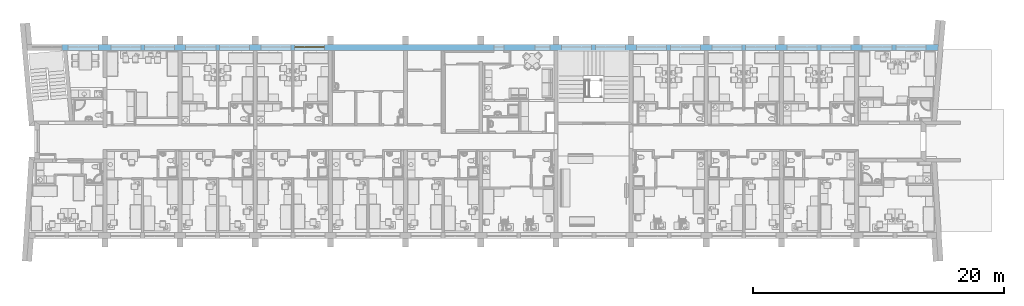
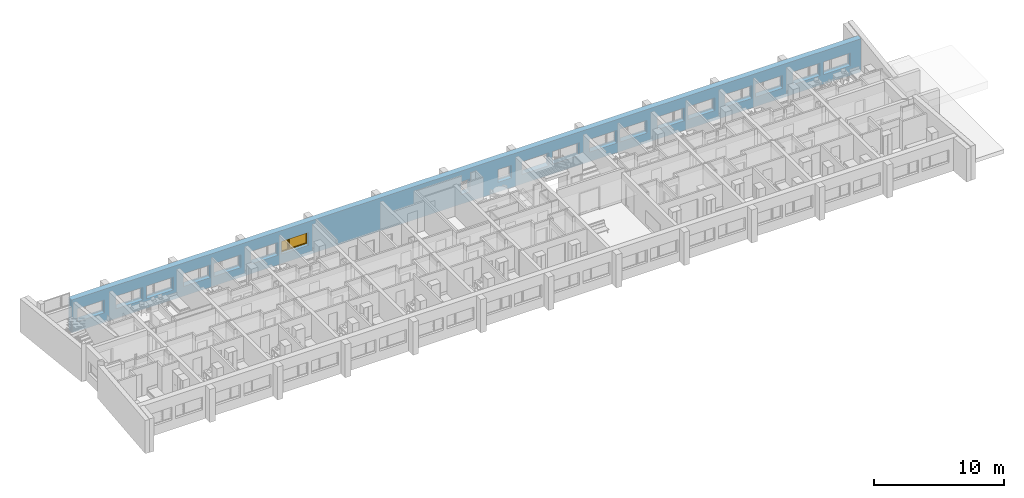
# One storey, part 33 of 172: 1 window, 19 openings, plus 1 element that does not belong to this part.
"""IFC2X3 building model written with IfcOpenShell, lengths in millimetres."""

from ifc_helpers import new_model, entity, si_unit, converted_unit, money_unit, direction, frame, origin_with_axes, place, context, subcontext, project, spatial, polyline, outline, extrude, open_shell, faceted_brep, surface_model, source, transform, mapped, material, material_list, layer, layer_set, layer_usage, type_object, element, fill, save


model = new_model("IFC2X3")

# Units and contexts
model_context = context("Model", 3, precision=1e-05, world=origin_with_axes(), true_north=direction((0.0, 1.0)))
body_context = subcontext(model_context, "Body", "Model", "MODEL_VIEW")
ifc_project = project(units=[si_unit("LENGTHUNIT", "METRE", prefix="MILLI"), si_unit("AREAUNIT", "SQUARE_METRE"), si_unit("VOLUMEUNIT", "CUBIC_METRE"), converted_unit("PLANEANGLEUNIT", "DEGREE", entity("IfcPlaneAngleMeasure", 0.0174532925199), si_unit("PLANEANGLEUNIT", "RADIAN"), dimensions=[0, 0, 0, 0, 0, 0, 0]), si_unit("SOLIDANGLEUNIT", "STERADIAN"), money_unit("USD"), converted_unit("TIMEUNIT", "Year", entity("IfcTimeMeasure", 31556926.0), si_unit("TIMEUNIT", "SECOND"), dimensions=[0, 0, 0, 0, 0, 0, 0]), si_unit("MASSUNIT", "GRAM"), si_unit("THERMODYNAMICTEMPERATUREUNIT", "DEGREE_CELSIUS"), si_unit("LUMINOUSINTENSITYUNIT", "LUMEN")], contexts=[model_context])

# Site, building, storey
site_placement = place(None, origin_with_axes())
site = spatial("IfcSite", under=ifc_project, at=site_placement, Name="Site", CompositionType="ELEMENT")
building_placement = place(site_placement, origin_with_axes())
building = spatial("IfcBuilding", under=site, at=building_placement, Name="Building", CompositionType="ELEMENT")
storey_placement = place(building_placement, frame((0.0, 0.0, 3200.0), z_axis=(0.0, 0.0, 1.0), x_axis=(1.0, 0.0, 0.0)))
storey = spatial("IfcBuildingStorey", under=building, at=storey_placement, Name="3KORRUS", CompositionType="ELEMENT", Elevation=3200.0)

# Wall, openings, window
ifc_material_1 = material(Name="Olemasolevad seinad tellis, uus viimistlus")
ifc_layer = layer(ifc_material_1, 500.0, ventilated="UNKNOWN")
ifc_layer_set = layer_set([ifc_layer], Name="Olemasolevad seinad tellis, uus viimistlus 500")
ifc_layer_usage = layer_usage(ifc_layer_set, "AXIS2", "POSITIVE", -100.0)
wall_type = type_object("IfcWallType", Name="Olemasolevad seinad tellis, uus viimistlus 500", PredefinedType="NOTDEFINED")
wall_placement = place(storey_placement, frame((-51569.3388124, -5039.6041088, 0.0), z_axis=(0.0, 0.0, 1.0), x_axis=(1.0, 0.0, 0.0)))
wall = element("IfcWallStandardCase", 1, at=wall_placement, inside=storey, type_object=wall_type, material=ifc_layer_usage, Name="VS1", ObjectType="VS1", context=body_context, shape_type="SweptSolid", body=[
    extrude(outline(polyline([(0.0, -100.0), (69914.7195482, -100.0), (69959.6995146, 400.0), (0.0, 400.0), (0.0, -100.0)])), origin_with_axes(), (0.0, 0.0, 1.0), 3100.0),
])
opening_1_placement = place(wall_placement, frame((34879.0421091, 0.0, 900.0), z_axis=(0.0, 0.0, 1.0), x_axis=(1.0, 0.0, 0.0)))
element("IfcOpeningElement", 2, at=opening_1_placement, cuts=wall, Name="WD - 001", context=body_context, shape_type="SweptSolid", body=[
    extrude(outline(polyline([(-400.0, 1200.0), (-400.0, 0.0), (400.0, 0.0), (400.0, 1200.0), (-400.0, 1200.0)])), frame((0.0, 200.0, 0.0), z_axis=(0.0, -1.0, 0.0), x_axis=(1.0, 0.0, 0.0)), (0.0, 0.0, 1.0), 800.0),
    extrude(outline(polyline([(-400.0, 0.0), (-400.0, -1200.0), (400.0, -1200.0), (400.0, 0.0), (-400.0, 0.0)])), frame((0.0, 200.0, 0.0), z_axis=(0.0, 1.0, 0.0), x_axis=(1.0, 0.0, 0.0)), (0.0, 0.0, 1.0), 700.0),
])
opening_2_placement = place(wall_placement, frame((38352.6323068, 0.0, 900.0), z_axis=(0.0, 0.0, 1.0), x_axis=(1.0, 0.0, 0.0)))
element("IfcOpeningElement", 3, at=opening_2_placement, cuts=wall, Name="A3", context=body_context, shape_type="SweptSolid", body=[
    extrude(outline(polyline([(-600.0, 1200.0), (-600.0, 0.0), (600.0, 0.0), (600.0, 1200.0), (-600.0, 1200.0)])), frame((0.0, 200.0, 0.0), z_axis=(0.0, -1.0, 0.0), x_axis=(1.0, 0.0, 0.0)), (0.0, 0.0, 1.0), 800.0),
    extrude(outline(polyline([(-600.0, 0.0), (-600.0, -1200.0), (600.0, -1200.0), (600.0, 0.0), (-600.0, 0.0)])), frame((0.0, 200.0, 0.0), z_axis=(0.0, 1.0, 0.0), x_axis=(1.0, 0.0, 0.0)), (0.0, 0.0, 1.0), 700.0),
])
opening_3_placement = place(wall_placement, frame((1700.0, 0.0, 900.0), z_axis=(0.0, 0.0, 1.0), x_axis=(1.0, 0.0, 0.0)))
element("IfcOpeningElement", 4, at=opening_3_placement, cuts=wall, Name="A1", context=body_context, shape_type="SweptSolid", body=[
    extrude(outline(polyline([(1200.0, 1200.0), (-1200.0, 1200.0), (-1200.0, 0.0), (1200.0, 0.0), (1200.0, 1200.0)])), frame((0.0, 200.0, 0.0), z_axis=(0.0, -1.0, 0.0), x_axis=(1.0, 0.0, 0.0)), (0.0, 0.0, 1.0), 800.0),
    extrude(outline(polyline([(1200.0, 0.0), (-1200.0, 0.0), (-1200.0, -1200.0), (1200.0, -1200.0), (1200.0, 0.0)])), frame((0.0, 200.0, 0.0), z_axis=(0.0, 1.0, 0.0), x_axis=(1.0, 0.0, 0.0)), (0.0, 0.0, 1.0), 700.0),
])
opening_4_placement = place(wall_placement, frame((7795.91085613, 0.0, 900.0), z_axis=(0.0, 0.0, 1.0), x_axis=(1.0, 0.0, 0.0)))
element("IfcOpeningElement", 5, at=opening_4_placement, cuts=wall, Name="A1", context=body_context, shape_type="SweptSolid", body=[
    extrude(outline(polyline([(1200.0, 1200.0), (-1200.0, 1200.0), (-1200.0, 0.0), (1200.0, 0.0), (1200.0, 1200.0)])), frame((0.0, 200.0, 0.0), z_axis=(0.0, -1.0, 0.0), x_axis=(1.0, 0.0, 0.0)), (0.0, 0.0, 1.0), 800.0),
    extrude(outline(polyline([(1200.0, 0.0), (-1200.0, 0.0), (-1200.0, -1200.0), (1200.0, -1200.0), (1200.0, 0.0)])), frame((0.0, 200.0, 0.0), z_axis=(0.0, 1.0, 0.0), x_axis=(1.0, 0.0, 0.0)), (0.0, 0.0, 1.0), 700.0),
])
opening_5_placement = place(wall_placement, frame((5095.91085613, 0.0, 900.0), z_axis=(0.0, 0.0, 1.0), x_axis=(1.0, 0.0, 0.0)))
element("IfcOpeningElement", 6, at=opening_5_placement, cuts=wall, Name="A2", context=body_context, shape_type="SweptSolid", body=[
    extrude(outline(polyline([(-1200.0, 1200.0), (-1200.0, 0.0), (1200.0, 0.0), (1200.0, 1200.0), (-1200.0, 1200.0)])), frame((0.0, 200.0, 0.0), z_axis=(0.0, -1.0, 0.0), x_axis=(1.0, 0.0, 0.0)), (0.0, 0.0, 1.0), 800.0),
    extrude(outline(polyline([(-1200.0, 0.0), (-1200.0, -1200.0), (1200.0, -1200.0), (1200.0, 0.0), (-1200.0, 0.0)])), frame((0.0, 200.0, 0.0), z_axis=(0.0, 1.0, 0.0), x_axis=(1.0, 0.0, 0.0)), (0.0, 0.0, 1.0), 700.0),
])
opening_6_placement = place(wall_placement, frame((13779.0421091, 0.0, 900.0), z_axis=(0.0, 0.0, 1.0), x_axis=(1.0, 0.0, 0.0)))
element("IfcOpeningElement", 7, at=opening_6_placement, cuts=wall, Name="A1", context=body_context, shape_type="SweptSolid", body=[
    extrude(outline(polyline([(1200.0, 1200.0), (-1200.0, 1200.0), (-1200.0, 0.0), (1200.0, 0.0), (1200.0, 1200.0)])), frame((0.0, 200.0, 0.0), z_axis=(0.0, -1.0, 0.0), x_axis=(1.0, 0.0, 0.0)), (0.0, 0.0, 1.0), 800.0),
    extrude(outline(polyline([(1200.0, 0.0), (-1200.0, 0.0), (-1200.0, -1200.0), (1200.0, -1200.0), (1200.0, 0.0)])), frame((0.0, 200.0, 0.0), z_axis=(0.0, 1.0, 0.0), x_axis=(1.0, 0.0, 0.0)), (0.0, 0.0, 1.0), 700.0),
])
opening_7_placement = place(wall_placement, frame((11079.0421091, 0.0, 900.0), z_axis=(0.0, 0.0, 1.0), x_axis=(1.0, 0.0, 0.0)))
element("IfcOpeningElement", 8, at=opening_7_placement, cuts=wall, Name="A2", context=body_context, shape_type="SweptSolid", body=[
    extrude(outline(polyline([(-1200.0, 1200.0), (-1200.0, 0.0), (1200.0, 0.0), (1200.0, 1200.0), (-1200.0, 1200.0)])), frame((0.0, 200.0, 0.0), z_axis=(0.0, -1.0, 0.0), x_axis=(1.0, 0.0, 0.0)), (0.0, 0.0, 1.0), 800.0),
    extrude(outline(polyline([(-1200.0, 0.0), (-1200.0, -1200.0), (1200.0, -1200.0), (1200.0, 0.0), (-1200.0, 0.0)])), frame((0.0, 200.0, 0.0), z_axis=(0.0, 1.0, 0.0), x_axis=(1.0, 0.0, 0.0)), (0.0, 0.0, 1.0), 700.0),
])
opening_8_placement = place(wall_placement, frame((43769.0421091, 0.0, 900.0), z_axis=(0.0, 0.0, 1.0), x_axis=(1.0, 0.0, 0.0)))
element("IfcOpeningElement", 9, at=opening_8_placement, cuts=wall, Name="A1", context=body_context, shape_type="SweptSolid", body=[
    extrude(outline(polyline([(1200.0, 1200.0), (-1200.0, 1200.0), (-1200.0, 0.0), (1200.0, 0.0), (1200.0, 1200.0)])), frame((0.0, 200.0, 0.0), z_axis=(0.0, -1.0, 0.0), x_axis=(1.0, 0.0, 0.0)), (0.0, 0.0, 1.0), 800.0),
    extrude(outline(polyline([(1200.0, 0.0), (-1200.0, 0.0), (-1200.0, -1200.0), (1200.0, -1200.0), (1200.0, 0.0)])), frame((0.0, 200.0, 0.0), z_axis=(0.0, 1.0, 0.0), x_axis=(1.0, 0.0, 0.0)), (0.0, 0.0, 1.0), 700.0),
])
opening_9_placement = place(wall_placement, frame((41069.0421091, 0.0, 900.0), z_axis=(0.0, 0.0, 1.0), x_axis=(1.0, 0.0, 0.0)))
element("IfcOpeningElement", 10, at=opening_9_placement, cuts=wall, Name="A2", context=body_context, shape_type="SweptSolid", body=[
    extrude(outline(polyline([(-1200.0, 1200.0), (-1200.0, 0.0), (1200.0, 0.0), (1200.0, 1200.0), (-1200.0, 1200.0)])), frame((0.0, 200.0, 0.0), z_axis=(0.0, -1.0, 0.0), x_axis=(1.0, 0.0, 0.0)), (0.0, 0.0, 1.0), 800.0),
    extrude(outline(polyline([(-1200.0, 0.0), (-1200.0, -1200.0), (1200.0, -1200.0), (1200.0, 0.0), (-1200.0, 0.0)])), frame((0.0, 200.0, 0.0), z_axis=(0.0, 1.0, 0.0), x_axis=(1.0, 0.0, 0.0)), (0.0, 0.0, 1.0), 700.0),
])
opening_10_placement = place(wall_placement, frame((49769.0421091, 0.0, 900.0), z_axis=(0.0, 0.0, 1.0), x_axis=(1.0, 0.0, 0.0)))
element("IfcOpeningElement", 11, at=opening_10_placement, cuts=wall, Name="A1", context=body_context, shape_type="SweptSolid", body=[
    extrude(outline(polyline([(1200.0, 1200.0), (-1200.0, 1200.0), (-1200.0, 0.0), (1200.0, 0.0), (1200.0, 1200.0)])), frame((0.0, 200.0, 0.0), z_axis=(0.0, -1.0, 0.0), x_axis=(1.0, 0.0, 0.0)), (0.0, 0.0, 1.0), 800.0),
    extrude(outline(polyline([(1200.0, 0.0), (-1200.0, 0.0), (-1200.0, -1200.0), (1200.0, -1200.0), (1200.0, 0.0)])), frame((0.0, 200.0, 0.0), z_axis=(0.0, 1.0, 0.0), x_axis=(1.0, 0.0, 0.0)), (0.0, 0.0, 1.0), 700.0),
])
opening_11_placement = place(wall_placement, frame((47069.0421091, 0.0, 900.0), z_axis=(0.0, 0.0, 1.0), x_axis=(1.0, 0.0, 0.0)))
element("IfcOpeningElement", 12, at=opening_11_placement, cuts=wall, Name="A2", context=body_context, shape_type="SweptSolid", body=[
    extrude(outline(polyline([(-1200.0, 1200.0), (-1200.0, 0.0), (1200.0, 0.0), (1200.0, 1200.0), (-1200.0, 1200.0)])), frame((0.0, 200.0, 0.0), z_axis=(0.0, -1.0, 0.0), x_axis=(1.0, 0.0, 0.0)), (0.0, 0.0, 1.0), 800.0),
    extrude(outline(polyline([(-1200.0, 0.0), (-1200.0, -1200.0), (1200.0, -1200.0), (1200.0, 0.0), (-1200.0, 0.0)])), frame((0.0, 200.0, 0.0), z_axis=(0.0, 1.0, 0.0), x_axis=(1.0, 0.0, 0.0)), (0.0, 0.0, 1.0), 700.0),
])
opening_12_placement = place(wall_placement, frame((55769.0421091, 0.0, 900.0), z_axis=(0.0, 0.0, 1.0), x_axis=(1.0, 0.0, 0.0)))
element("IfcOpeningElement", 13, at=opening_12_placement, cuts=wall, Name="A1", context=body_context, shape_type="SweptSolid", body=[
    extrude(outline(polyline([(1200.0, 1200.0), (-1200.0, 1200.0), (-1200.0, 0.0), (1200.0, 0.0), (1200.0, 1200.0)])), frame((0.0, 200.0, 0.0), z_axis=(0.0, -1.0, 0.0), x_axis=(1.0, 0.0, 0.0)), (0.0, 0.0, 1.0), 800.0),
    extrude(outline(polyline([(1200.0, 0.0), (-1200.0, 0.0), (-1200.0, -1200.0), (1200.0, -1200.0), (1200.0, 0.0)])), frame((0.0, 200.0, 0.0), z_axis=(0.0, 1.0, 0.0), x_axis=(1.0, 0.0, 0.0)), (0.0, 0.0, 1.0), 700.0),
])
opening_13_placement = place(wall_placement, frame((53069.0421091, 0.0, 900.0), z_axis=(0.0, 0.0, 1.0), x_axis=(1.0, 0.0, 0.0)))
element("IfcOpeningElement", 14, at=opening_13_placement, cuts=wall, Name="A2", context=body_context, shape_type="SweptSolid", body=[
    extrude(outline(polyline([(-1200.0, 1200.0), (-1200.0, 0.0), (1200.0, 0.0), (1200.0, 1200.0), (-1200.0, 1200.0)])), frame((0.0, 200.0, 0.0), z_axis=(0.0, -1.0, 0.0), x_axis=(1.0, 0.0, 0.0)), (0.0, 0.0, 1.0), 800.0),
    extrude(outline(polyline([(-1200.0, 0.0), (-1200.0, -1200.0), (1200.0, -1200.0), (1200.0, 0.0), (-1200.0, 0.0)])), frame((0.0, 200.0, 0.0), z_axis=(0.0, 1.0, 0.0), x_axis=(1.0, 0.0, 0.0)), (0.0, 0.0, 1.0), 700.0),
])
opening_14_placement = place(wall_placement, frame((61769.0421091, 0.0, 900.0), z_axis=(0.0, 0.0, 1.0), x_axis=(1.0, 0.0, 0.0)))
element("IfcOpeningElement", 15, at=opening_14_placement, cuts=wall, Name="A1", context=body_context, shape_type="SweptSolid", body=[
    extrude(outline(polyline([(1200.0, 1200.0), (-1200.0, 1200.0), (-1200.0, 0.0), (1200.0, 0.0), (1200.0, 1200.0)])), frame((0.0, 200.0, 0.0), z_axis=(0.0, -1.0, 0.0), x_axis=(1.0, 0.0, 0.0)), (0.0, 0.0, 1.0), 800.0),
    extrude(outline(polyline([(1200.0, 0.0), (-1200.0, 0.0), (-1200.0, -1200.0), (1200.0, -1200.0), (1200.0, 0.0)])), frame((0.0, 200.0, 0.0), z_axis=(0.0, 1.0, 0.0), x_axis=(1.0, 0.0, 0.0)), (0.0, 0.0, 1.0), 700.0),
])
opening_15_placement = place(wall_placement, frame((59069.0421091, 0.0, 900.0), z_axis=(0.0, 0.0, 1.0), x_axis=(1.0, 0.0, 0.0)))
element("IfcOpeningElement", 16, at=opening_15_placement, cuts=wall, Name="A2", context=body_context, shape_type="SweptSolid", body=[
    extrude(outline(polyline([(-1200.0, 1200.0), (-1200.0, 0.0), (1200.0, 0.0), (1200.0, 1200.0), (-1200.0, 1200.0)])), frame((0.0, 200.0, 0.0), z_axis=(0.0, -1.0, 0.0), x_axis=(1.0, 0.0, 0.0)), (0.0, 0.0, 1.0), 800.0),
    extrude(outline(polyline([(-1200.0, 0.0), (-1200.0, -1200.0), (1200.0, -1200.0), (1200.0, 0.0), (-1200.0, 0.0)])), frame((0.0, 200.0, 0.0), z_axis=(0.0, 1.0, 0.0), x_axis=(1.0, 0.0, 0.0)), (0.0, 0.0, 1.0), 700.0),
])
opening_16_placement = place(wall_placement, frame((67773.3244043, 0.0, 900.0), z_axis=(0.0, 0.0, 1.0), x_axis=(1.0, 0.0, 0.0)))
element("IfcOpeningElement", 17, at=opening_16_placement, cuts=wall, Name="A1", context=body_context, shape_type="SweptSolid", body=[
    extrude(outline(polyline([(1200.0, 1200.0), (-1200.0, 1200.0), (-1200.0, 0.0), (1200.0, 0.0), (1200.0, 1200.0)])), frame((0.0, 200.0, 0.0), z_axis=(0.0, -1.0, 0.0), x_axis=(1.0, 0.0, 0.0)), (0.0, 0.0, 1.0), 800.0),
    extrude(outline(polyline([(1200.0, 0.0), (-1200.0, 0.0), (-1200.0, -1200.0), (1200.0, -1200.0), (1200.0, 0.0)])), frame((0.0, 200.0, 0.0), z_axis=(0.0, 1.0, 0.0), x_axis=(1.0, 0.0, 0.0)), (0.0, 0.0, 1.0), 700.0),
])
opening_17_placement = place(wall_placement, frame((65073.3244043, 0.0, 900.0), z_axis=(0.0, 0.0, 1.0), x_axis=(1.0, 0.0, 0.0)))
element("IfcOpeningElement", 18, at=opening_17_placement, cuts=wall, Name="A2", context=body_context, shape_type="SweptSolid", body=[
    extrude(outline(polyline([(-1200.0, 1200.0), (-1200.0, 0.0), (1200.0, 0.0), (1200.0, 1200.0), (-1200.0, 1200.0)])), frame((0.0, 200.0, 0.0), z_axis=(0.0, -1.0, 0.0), x_axis=(1.0, 0.0, 0.0)), (0.0, 0.0, 1.0), 800.0),
    extrude(outline(polyline([(-1200.0, 0.0), (-1200.0, -1200.0), (1200.0, -1200.0), (1200.0, 0.0), (-1200.0, 0.0)])), frame((0.0, 200.0, 0.0), z_axis=(0.0, 1.0, 0.0), x_axis=(1.0, 0.0, 0.0)), (0.0, 0.0, 1.0), 700.0),
])
opening_18_placement = place(wall_placement, frame((19767.4765851, 0.0, 900.0), z_axis=(0.0, 0.0, 1.0), x_axis=(1.0, 0.0, 0.0)))
opening_18 = element("IfcOpeningElement", 19, at=opening_18_placement, cuts=wall, Name="A1", context=body_context, shape_type="SweptSolid", body=[
    extrude(outline(polyline([(1200.0, 1200.0), (-1200.0, 1200.0), (-1200.0, 0.0), (1200.0, 0.0), (1200.0, 1200.0)])), frame((0.0, 200.0, 0.0), z_axis=(0.0, -1.0, 0.0), x_axis=(1.0, 0.0, 0.0)), (0.0, 0.0, 1.0), 800.0),
    extrude(outline(polyline([(1200.0, 0.0), (-1200.0, 0.0), (-1200.0, -1200.0), (1200.0, -1200.0), (1200.0, 0.0)])), frame((0.0, 200.0, 0.0), z_axis=(0.0, 1.0, 0.0), x_axis=(1.0, 0.0, 0.0)), (0.0, 0.0, 1.0), 700.0),
])
opening_19_placement = place(wall_placement, frame((17067.4765851, 0.0, 900.0), z_axis=(0.0, 0.0, 1.0), x_axis=(1.0, 0.0, 0.0)))
element("IfcOpeningElement", 20, at=opening_19_placement, cuts=wall, Name="A2", context=body_context, shape_type="SweptSolid", body=[
    extrude(outline(polyline([(-1200.0, 1200.0), (-1200.0, 0.0), (1200.0, 0.0), (1200.0, 1200.0), (-1200.0, 1200.0)])), frame((0.0, 200.0, 0.0), z_axis=(0.0, -1.0, 0.0), x_axis=(1.0, 0.0, 0.0)), (0.0, 0.0, 1.0), 800.0),
    extrude(outline(polyline([(-1200.0, 0.0), (-1200.0, -1200.0), (1200.0, -1200.0), (1200.0, 0.0), (-1200.0, 0.0)])), frame((0.0, 200.0, 0.0), z_axis=(0.0, 1.0, 0.0), x_axis=(1.0, 0.0, 0.0)), (0.0, 0.0, 1.0), 700.0),
])
ifc_material_2 = material(Name="Background")
ifc_material_list = material_list([ifc_material_2])
window_style = type_object("IfcWindowStyle", Name="Double Window 19", ConstructionType="NOTDEFINED", OperationType="DOUBLE_PANEL_VERTICAL", ParameterTakesPrecedence=False, Sizeable=False)
shared_shape = source(origin_with_axes(), body_context, "Body", "SurfaceModel", [
    faceted_brep([(1175.0, -200.0, 1150.0), (1175.0, -225.0, 1150.0), (1150.0, -225.0, 1150.0), (1150.0, -250.0, 1150.0), (1200.0, -250.0, 1150.0), (1200.0, -200.0, 1150.0), (1175.0, -200.0, 50.0), (1175.0, -225.0, 50.0), (1150.0, -225.0, 50.0), (1150.0, -250.0, 50.0), (1200.0, -250.0, 50.0), (1200.0, -200.0, 50.0)], [[[0, 1, 2, 3, 4, 5]], [[1, 0, 6, 7]], [[8, 2, 1, 7]], [[2, 8, 9, 3]], [[4, 3, 9, 10]], [[5, 4, 10, 11]], [[6, 0, 5, 11]], [[7, 6, 11, 10, 9, 8]]]),
    faceted_brep([(-1150.0, -225.0, 1150.0), (-1175.0, -225.0, 1150.0), (-1175.0, -200.0, 1150.0), (-1200.0, -200.0, 1150.0), (-1200.0, -250.0, 1150.0), (-1150.0, -250.0, 1150.0), (-1150.0, -225.0, 50.0), (-1175.0, -225.0, 50.0), (-1175.0, -200.0, 50.0), (-1200.0, -200.0, 50.0), (-1200.0, -250.0, 50.0), (-1150.0, -250.0, 50.0)], [[[0, 1, 2, 3, 4, 5]], [[1, 0, 6, 7]], [[8, 2, 1, 7]], [[2, 8, 9, 3]], [[9, 10, 4, 3]], [[10, 11, 5, 4]], [[6, 0, 5, 11]], [[7, 6, 11, 10, 9, 8]]]),
    faceted_brep([(-350.0, -225.0, 1150.0), (-375.0, -225.0, 1150.0), (-375.0, -200.0, 1150.0), (-425.0, -200.0, 1150.0), (-425.0, -225.0, 1150.0), (-450.0, -225.0, 1150.0), (-450.0, -250.0, 1150.0), (-350.0, -250.0, 1150.0), (-350.0, -225.0, 50.0), (-375.0, -225.0, 50.0), (-375.0, -200.0, 50.0), (-425.0, -200.0, 50.0), (-425.0, -225.0, 50.0), (-450.0, -225.0, 50.0), (-450.0, -250.0, 50.0), (-350.0, -250.0, 50.0)], [[[0, 1, 2, 3, 4, 5, 6, 7]], [[1, 0, 8, 9]], [[10, 2, 1, 9]], [[2, 10, 11, 3]], [[4, 3, 11, 12]], [[13, 5, 4, 12]], [[5, 13, 14, 6]], [[14, 15, 7, 6]], [[8, 0, 7, 15]], [[9, 8, 15, 14, 13, 12, 11, 10]]]),
    faceted_brep([(-350.0, -225.0, 50.0), (-375.0, -225.0, 50.0), (-375.0, -200.0, 50.0), (-425.0, -200.0, 50.0), (-425.0, -225.0, 50.0), (-450.0, -225.0, 50.0), (-450.0, -250.0, 50.0), (-350.0, -250.0, 50.0), (1150.0, -225.0, 50.0), (1175.0, -225.0, 50.0), (1175.0, -225.0, 25.0), (-375.0, -225.0, 25.0), (-375.0, -200.0, 25.0), (1175.0, -200.0, 25.0), (1175.0, -200.0, 50.0), (1200.0, -200.0, 50.0), (1200.0, -200.0, 0.0), (-1200.0, -200.0, 0.0), (-1200.0, -200.0, 50.0), (-1175.0, -200.0, 50.0), (-1175.0, -200.0, 25.0), (-425.0, -200.0, 25.0), (-425.0, -225.0, 25.0), (-1175.0, -225.0, 50.0), (-1150.0, -225.0, 50.0), (-1175.0, -225.0, 25.0), (-1150.0, -250.0, 50.0), (1200.0, -250.0, 50.0), (1150.0, -250.0, 50.0), (-1200.0, -250.0, 50.0), (-1200.0, -250.0, 0.0), (1200.0, -250.0, 0.0)], [[[0, 1, 2, 3, 4, 5, 6, 7]], [[1, 0, 8, 9, 10, 11]], [[12, 2, 1, 11]], [[13, 14, 15, 16, 17, 18, 19, 20, 21, 3, 2, 12]], [[4, 3, 21, 22]], [[23, 24, 5, 4, 22, 25]], [[5, 24, 26, 6]], [[27, 28, 7, 6, 26, 29, 30, 31]], [[8, 0, 7, 28]], [[9, 8, 28, 27, 15, 14]], [[9, 14, 13, 10]], [[13, 12, 11, 10]], [[15, 27, 31, 16]], [[16, 31, 30, 17]], [[17, 30, 29, 18]], [[24, 23, 19, 18, 29, 26]], [[20, 19, 23, 25]], [[21, 20, 25, 22]]]),
    faceted_brep([(1175.0, -200.0, 1150.0), (1175.0, -200.0, 1175.0), (-375.0, -200.0, 1175.0), (-375.0, -200.0, 1150.0), (-425.0, -200.0, 1150.0), (-425.0, -200.0, 1175.0), (-1175.0, -200.0, 1175.0), (-1175.0, -200.0, 1150.0), (-1200.0, -200.0, 1150.0), (-1200.0, -200.0, 1200.0), (1200.0, -200.0, 1200.0), (1200.0, -200.0, 1150.0), (1175.0, -225.0, 1150.0), (1175.0, -225.0, 1175.0), (-375.0, -225.0, 1175.0), (-375.0, -225.0, 1150.0), (-350.0, -225.0, 1150.0), (-350.0, -250.0, 1150.0), (-450.0, -250.0, 1150.0), (-450.0, -225.0, 1150.0), (-425.0, -225.0, 1150.0), (-425.0, -225.0, 1175.0), (-1175.0, -225.0, 1175.0), (-1175.0, -225.0, 1150.0), (-1150.0, -225.0, 1150.0), (-1150.0, -250.0, 1150.0), (-1200.0, -250.0, 1150.0), (-1200.0, -250.0, 1200.0), (1200.0, -250.0, 1200.0), (1200.0, -250.0, 1150.0), (1150.0, -250.0, 1150.0), (1150.0, -225.0, 1150.0)], [[[0, 1, 2, 3, 4, 5, 6, 7, 8, 9, 10, 11]], [[1, 0, 12, 13]], [[2, 1, 13, 14]], [[3, 2, 14, 15]], [[15, 16, 17, 18, 19, 20, 4, 3]], [[5, 4, 20, 21]], [[6, 5, 21, 22]], [[7, 6, 22, 23]], [[23, 24, 25, 26, 8, 7]], [[8, 26, 27, 9]], [[9, 27, 28, 10]], [[10, 28, 29, 11]], [[12, 0, 11, 29, 30, 31]], [[16, 15, 14, 13, 12, 31]], [[16, 31, 30, 17]], [[18, 17, 30, 29, 28, 27, 26, 25]], [[24, 19, 18, 25]], [[24, 23, 22, 21, 20, 19]]]),
    faceted_brep([(1125.0, -225.0, 1125.0), (1175.0, -225.0, 1125.0), (1175.0, -175.0, 1125.0), (1125.0, -175.0, 1125.0), (1125.0, -225.0, 75.0), (1175.0, -225.0, 75.0), (1175.0, -175.0, 75.0), (1125.0, -175.0, 75.0)], [[[0, 1, 2, 3]], [[0, 4, 5, 1]], [[1, 5, 6, 2]], [[3, 2, 6, 7]], [[4, 0, 3, 7]], [[5, 4, 7, 6]]]),
    faceted_brep([(-325.0, -225.0, 75.0), (-375.0, -225.0, 75.0), (-375.0, -175.0, 75.0), (-325.0, -175.0, 75.0), (-325.0, -225.0, 1125.0), (-375.0, -225.0, 1125.0), (-375.0, -175.0, 1125.0), (-325.0, -175.0, 1125.0)], [[[0, 1, 2, 3]], [[0, 4, 5, 1]], [[1, 5, 6, 2]], [[3, 2, 6, 7]], [[4, 0, 3, 7]], [[5, 4, 7, 6]]]),
    faceted_brep([(-375.0, -225.0, 25.0), (-375.0, -225.0, 75.0), (-375.0, -175.0, 75.0), (-375.0, -175.0, 25.0), (1175.0, -225.0, 25.0), (1175.0, -225.0, 75.0), (1125.0, -225.0, 75.0), (-325.0, -225.0, 75.0), (-325.0, -175.0, 75.0), (1125.0, -175.0, 75.0), (1175.0, -175.0, 75.0), (1175.0, -175.0, 25.0)], [[[0, 1, 2, 3]], [[0, 4, 5, 6, 7, 1]], [[1, 7, 8, 2]], [[3, 2, 8, 9, 10, 11]], [[4, 0, 3, 11]], [[5, 4, 11, 10]], [[6, 5, 10, 9]], [[7, 6, 9, 8]]]),
    faceted_brep([(1175.0, -225.0, 1175.0), (1175.0, -225.0, 1125.0), (1175.0, -175.0, 1125.0), (1175.0, -175.0, 1175.0), (-375.0, -225.0, 1175.0), (-375.0, -225.0, 1125.0), (-325.0, -225.0, 1125.0), (1125.0, -225.0, 1125.0), (1125.0, -175.0, 1125.0), (-325.0, -175.0, 1125.0), (-375.0, -175.0, 1125.0), (-375.0, -175.0, 1175.0)], [[[0, 1, 2, 3]], [[0, 4, 5, 6, 7, 1]], [[1, 7, 8, 2]], [[3, 2, 8, 9, 10, 11]], [[4, 0, 3, 11]], [[5, 4, 11, 10]], [[6, 5, 10, 9]], [[7, 6, 9, 8]]]),
    surface_model("IfcShellBasedSurfaceModel", [(1125.0, -210.0, 75.0), (1125.0, -210.0, 1125.0), (-325.0, -210.0, 1125.0), (-325.0, -210.0, 75.0)], [open_shell([[[0, 1, 2, 3]]])]),
    surface_model("IfcShellBasedSurfaceModel", [(1125.0, -190.0, 75.0), (-325.0, -190.0, 75.0), (-325.0, -190.0, 1125.0), (1125.0, -190.0, 1125.0)], [open_shell([[[0, 1, 2, 3]]])]),
    faceted_brep([(-475.0, -225.0, 1125.0), (-425.0, -225.0, 1125.0), (-425.0, -175.0, 1125.0), (-475.0, -175.0, 1125.0), (-475.0, -225.0, 75.0), (-425.0, -225.0, 75.0), (-425.0, -175.0, 75.0), (-475.0, -175.0, 75.0)], [[[0, 1, 2, 3]], [[0, 4, 5, 1]], [[1, 5, 6, 2]], [[3, 2, 6, 7]], [[4, 0, 3, 7]], [[5, 4, 7, 6]]]),
    faceted_brep([(-1125.0, -225.0, 75.0), (-1175.0, -225.0, 75.0), (-1175.0, -175.0, 75.0), (-1125.0, -175.0, 75.0), (-1125.0, -225.0, 1125.0), (-1175.0, -225.0, 1125.0), (-1175.0, -175.0, 1125.0), (-1125.0, -175.0, 1125.0)], [[[0, 1, 2, 3]], [[0, 4, 5, 1]], [[1, 5, 6, 2]], [[3, 2, 6, 7]], [[4, 0, 3, 7]], [[5, 4, 7, 6]]]),
    faceted_brep([(-1175.0, -225.0, 25.0), (-1175.0, -225.0, 75.0), (-1175.0, -175.0, 75.0), (-1175.0, -175.0, 25.0), (-425.0, -225.0, 25.0), (-425.0, -225.0, 75.0), (-475.0, -225.0, 75.0), (-1125.0, -225.0, 75.0), (-1125.0, -175.0, 75.0), (-475.0, -175.0, 75.0), (-425.0, -175.0, 75.0), (-425.0, -175.0, 25.0)], [[[0, 1, 2, 3]], [[0, 4, 5, 6, 7, 1]], [[1, 7, 8, 2]], [[3, 2, 8, 9, 10, 11]], [[4, 0, 3, 11]], [[5, 4, 11, 10]], [[6, 5, 10, 9]], [[7, 6, 9, 8]]]),
    faceted_brep([(-425.0, -225.0, 1175.0), (-425.0, -225.0, 1125.0), (-425.0, -175.0, 1125.0), (-425.0, -175.0, 1175.0), (-1175.0, -225.0, 1175.0), (-1175.0, -225.0, 1125.0), (-1125.0, -225.0, 1125.0), (-475.0, -225.0, 1125.0), (-475.0, -175.0, 1125.0), (-1125.0, -175.0, 1125.0), (-1175.0, -175.0, 1125.0), (-1175.0, -175.0, 1175.0)], [[[0, 1, 2, 3]], [[0, 4, 5, 6, 7, 1]], [[1, 7, 8, 2]], [[3, 2, 8, 9, 10, 11]], [[4, 0, 3, 11]], [[5, 4, 11, 10]], [[6, 5, 10, 9]], [[7, 6, 9, 8]]]),
    surface_model("IfcShellBasedSurfaceModel", [(-475.0, -210.0, 75.0), (-475.0, -210.0, 1125.0), (-1125.0, -210.0, 1125.0), (-1125.0, -210.0, 75.0)], [open_shell([[[0, 1, 2, 3]]])]),
    surface_model("IfcShellBasedSurfaceModel", [(-475.0, -190.0, 75.0), (-1125.0, -190.0, 75.0), (-1125.0, -190.0, 1125.0), (-475.0, -190.0, 1125.0)], [open_shell([[[0, 1, 2, 3]]])]),
])
window_placement = place(opening_18_placement, frame((-1200.0, 0.0, 0.0), z_axis=(0.0, 0.0, 1.0), x_axis=(1.0, 0.0, 0.0)))
window = element("IfcWindow", 21, at=window_placement, inside=storey, type_object=window_style, material=ifc_material_list, Name="A1", ObjectType="A1", OverallHeight=1200.0, OverallWidth=2400.0, context=body_context, shape_type="MappedRepresentation", body=[
    mapped(shared_shape, transform((1200.0, 400.0, 0.0))),
])
fill(opening_18, window)

save(model, "model.ifc")
